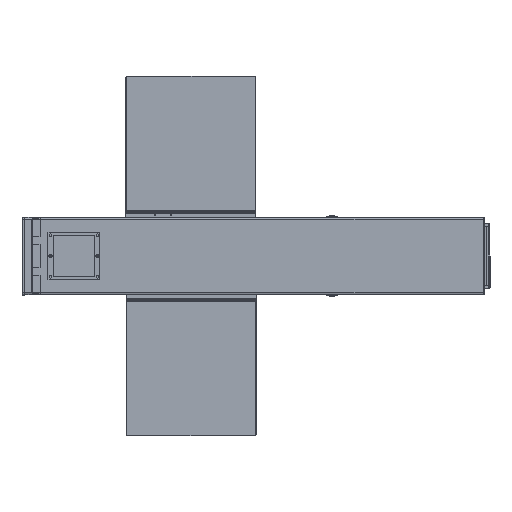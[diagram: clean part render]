
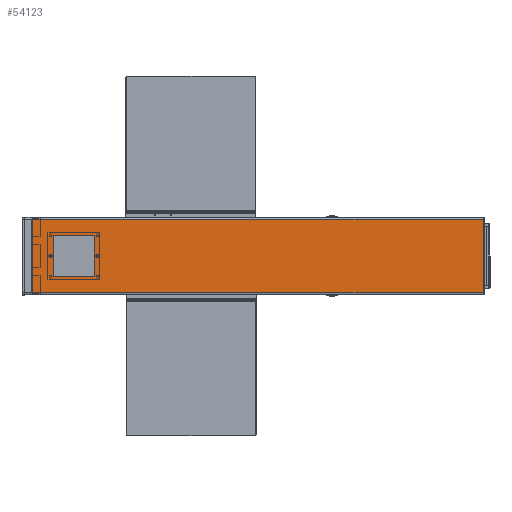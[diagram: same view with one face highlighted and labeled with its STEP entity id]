
A CAD part, left-side view. The second image highlights one B-rep face of the part: STEP entity #54123.
In plain terms, the highlighted planar face has unit normal (-1, 0, 0).
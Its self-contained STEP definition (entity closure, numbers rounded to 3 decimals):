
#933 = ORIENTED_EDGE ( 'NONE', *, *, #22553, .F. ) ;
#1550 = DIRECTION ( 'NONE',  ( 0., 0., -1. ) ) ;
#1794 = ORIENTED_EDGE ( 'NONE', *, *, #59800, .F. ) ;
#2499 = CARTESIAN_POINT ( 'NONE',  ( 0., 3., 71. ) ) ;
#3221 = VERTEX_POINT ( 'NONE', #36270 ) ;
#3686 = CARTESIAN_POINT ( 'NONE',  ( 0., 3., 70.999 ) ) ;
#4057 = CARTESIAN_POINT ( 'NONE',  ( 0., 870., -74. ) ) ;
#5392 = EDGE_CURVE ( 'NONE', #48342, #33357, #32917, .T. ) ;
#5686 = ORIENTED_EDGE ( 'NONE', *, *, #39992, .F. ) ;
#6883 = LINE ( 'NONE', #32531, #36409 ) ;
#7031 = DIRECTION ( 'NONE',  ( 0., 0., -1. ) ) ;
#8426 = CIRCLE ( 'NONE', #43385, 4. ) ;
#9350 = EDGE_CURVE ( 'NONE', #3221, #66545, #6883, .T. ) ;
#9856 = ORIENTED_EDGE ( 'NONE', *, *, #82228, .F. ) ;
#12109 = CARTESIAN_POINT ( 'NONE',  ( 0., 3.001, -74. ) ) ;
#12134 = LINE ( 'NONE', #37803, #80181 ) ;
#12527 = CARTESIAN_POINT ( 'NONE',  ( 0., 3., -70.999 ) ) ;
#13840 = DIRECTION ( 'NONE',  ( 0., 0., -1. ) ) ;
#14849 = EDGE_CURVE ( 'NONE', #49446, #40145, #50481, .T. ) ;
#15073 = VERTEX_POINT ( 'NONE', #33230 ) ;
#15799 = VERTEX_POINT ( 'NONE', #3686 ) ;
#16761 = LINE ( 'NONE', #49527, #70058 ) ;
#17163 = EDGE_CURVE ( 'NONE', #43321, #25435, #12134, .T. ) ;
#17921 = DIRECTION ( 'NONE',  ( 1., 0., 0. ) ) ;
#18798 = CIRCLE ( 'NONE', #75206, 4. ) ;
#19355 = CARTESIAN_POINT ( 'NONE',  ( 0., 870., -74. ) ) ;
#19509 = CARTESIAN_POINT ( 'NONE',  ( 0., 826., -40. ) ) ;
#22488 = VECTOR ( 'NONE', #74088, 1000. ) ;
#22553 = EDGE_CURVE ( 'NONE', #15799, #49446, #50998, .T. ) ;
#24178 = DIRECTION ( 'NONE',  ( 0., 0., -1. ) ) ;
#24221 = ORIENTED_EDGE ( 'NONE', *, *, #67752, .F. ) ;
#25100 = ORIENTED_EDGE ( 'NONE', *, *, #63370, .F. ) ;
#25435 = VERTEX_POINT ( 'NONE', #36154 ) ;
#25591 = EDGE_CURVE ( 'NONE', #29754, #71290, #45776, .T. ) ;
#26010 = VECTOR ( 'NONE', #31184, 1000. ) ;
#28351 = CIRCLE ( 'NONE', #75358, 4. ) ;
#29160 = ORIENTED_EDGE ( 'NONE', *, *, #66202, .F. ) ;
#29426 = VECTOR ( 'NONE', #24178, 1000. ) ;
#29754 = VERTEX_POINT ( 'NONE', #62087 ) ;
#30257 = CARTESIAN_POINT ( 'NONE',  ( 0., 754., 36. ) ) ;
#31184 = DIRECTION ( 'NONE',  ( 0., 1., 0. ) ) ;
#32531 = CARTESIAN_POINT ( 'NONE',  ( 0., 1.5, -71. ) ) ;
#32549 = CARTESIAN_POINT ( 'NONE',  ( 0., 750., -36. ) ) ;
#32917 = LINE ( 'NONE', #60183, #59363 ) ;
#33159 = CARTESIAN_POINT ( 'NONE',  ( 0., 830., -36. ) ) ;
#33230 = CARTESIAN_POINT ( 'NONE',  ( 0., 870., 71. ) ) ;
#33357 = VERTEX_POINT ( 'NONE', #2499 ) ;
#33948 = DIRECTION ( 'NONE',  ( -1., 0., 0. ) ) ;
#34002 = ORIENTED_EDGE ( 'NONE', *, *, #14849, .F. ) ;
#34536 = VECTOR ( 'NONE', #43626, 1000. ) ;
#36154 = CARTESIAN_POINT ( 'NONE',  ( 0., 750., 36. ) ) ;
#36270 = CARTESIAN_POINT ( 'NONE',  ( 0., 3., -71. ) ) ;
#36409 = VECTOR ( 'NONE', #58151, 1000. ) ;
#36780 = CARTESIAN_POINT ( 'NONE',  ( 0., 3., 73.585 ) ) ;
#37803 = CARTESIAN_POINT ( 'NONE',  ( 0., 750., -36. ) ) ;
#38135 = CARTESIAN_POINT ( 'NONE',  ( 0., 870., 71. ) ) ;
#39102 = CARTESIAN_POINT ( 'NONE',  ( 0., 870., 70.999 ) ) ;
#39732 = EDGE_CURVE ( 'NONE', #40145, #3221, #62573, .T. ) ;
#39992 = EDGE_CURVE ( 'NONE', #67983, #43321, #18798, .T. ) ;
#40145 = VERTEX_POINT ( 'NONE', #80613 ) ;
#41236 = ORIENTED_EDGE ( 'NONE', *, *, #58928, .F. ) ;
#42291 = ORIENTED_EDGE ( 'NONE', *, *, #52319, .F. ) ;
#43321 = VERTEX_POINT ( 'NONE', #32549 ) ;
#43385 = AXIS2_PLACEMENT_3D ( 'NONE', #59124, #53663, #1550 ) ;
#43626 = DIRECTION ( 'NONE',  ( 0., -1., 0. ) ) ;
#44054 = ORIENTED_EDGE ( 'NONE', *, *, #9350, .F. ) ;
#44186 = DIRECTION ( 'NONE',  ( 0., 0., 1. ) ) ;
#45654 = ORIENTED_EDGE ( 'NONE', *, *, #39732, .F. ) ;
#45776 = LINE ( 'NONE', #33159, #57900 ) ;
#46541 = CARTESIAN_POINT ( 'NONE',  ( 0., 754., -36. ) ) ;
#46962 = CARTESIAN_POINT ( 'NONE',  ( 0., 830., -36. ) ) ;
#47695 = AXIS2_PLACEMENT_3D ( 'NONE', #4057, #17921, #68792 ) ;
#48342 = VERTEX_POINT ( 'NONE', #60486 ) ;
#49263 = CARTESIAN_POINT ( 'NONE',  ( 0., 870., -70.999 ) ) ;
#49446 = VERTEX_POINT ( 'NONE', #12527 ) ;
#49527 = CARTESIAN_POINT ( 'NONE',  ( 0., 826., 40. ) ) ;
#50481 = LINE ( 'NONE', #49263, #26010 ) ;
#50644 = FACE_OUTER_BOUND ( 'NONE', #67129, .T. ) ;
#50844 = CARTESIAN_POINT ( 'NONE',  ( 0., 826., -36. ) ) ;
#50998 = LINE ( 'NONE', #36780, #29426 ) ;
#51283 = VERTEX_POINT ( 'NONE', #52833 ) ;
#52091 = LINE ( 'NONE', #19355, #72744 ) ;
#52319 = EDGE_CURVE ( 'NONE', #66545, #15073, #52091, .T. ) ;
#52833 = CARTESIAN_POINT ( 'NONE',  ( 0., 754., 40. ) ) ;
#53663 = DIRECTION ( 'NONE',  ( -1., 0., 0. ) ) ;
#54123 = ADVANCED_FACE ( 'NONE', ( #69188, #50644 ), #75492, .F. ) ;
#54464 = CARTESIAN_POINT ( 'NONE',  ( 0., 870., -71. ) ) ;
#55150 = CARTESIAN_POINT ( 'NONE',  ( 0., 826., -40. ) ) ;
#55636 = CIRCLE ( 'NONE', #75804, 4. ) ;
#55845 = DIRECTION ( 'NONE',  ( -1., 0., 0. ) ) ;
#56615 = LINE ( 'NONE', #38135, #34536 ) ;
#57900 = VECTOR ( 'NONE', #65935, 1000. ) ;
#58151 = DIRECTION ( 'NONE',  ( 0., 1., 0. ) ) ;
#58928 = EDGE_CURVE ( 'NONE', #25435, #51283, #28351, .T. ) ;
#59124 = CARTESIAN_POINT ( 'NONE',  ( 0., 826., 36. ) ) ;
#59363 = VECTOR ( 'NONE', #59368, 1000. ) ;
#59368 = DIRECTION ( 'NONE',  ( 0., 0., 1. ) ) ;
#59671 = CARTESIAN_POINT ( 'NONE',  ( 0., 754., -40. ) ) ;
#59800 = EDGE_CURVE ( 'NONE', #51283, #70733, #16761, .T. ) ;
#60183 = CARTESIAN_POINT ( 'NONE',  ( 0., 3., -74. ) ) ;
#60299 = ORIENTED_EDGE ( 'NONE', *, *, #70768, .T. ) ;
#60486 = CARTESIAN_POINT ( 'NONE',  ( 0., 3., 70.999 ) ) ;
#62087 = CARTESIAN_POINT ( 'NONE',  ( 0., 830., 36. ) ) ;
#62103 = ORIENTED_EDGE ( 'NONE', *, *, #25591, .F. ) ;
#62573 = LINE ( 'NONE', #12109, #71084 ) ;
#63019 = DIRECTION ( 'NONE',  ( 0., 0., 1. ) ) ;
#63370 = EDGE_CURVE ( 'NONE', #71290, #66665, #55636, .T. ) ;
#63482 = LINE ( 'NONE', #39102, #78823 ) ;
#64280 = DIRECTION ( 'NONE',  ( -1., 0., 0. ) ) ;
#65935 = DIRECTION ( 'NONE',  ( 0., 0., -1. ) ) ;
#66202 = EDGE_CURVE ( 'NONE', #15073, #33357, #56615, .T. ) ;
#66545 = VERTEX_POINT ( 'NONE', #54464 ) ;
#66665 = VERTEX_POINT ( 'NONE', #19509 ) ;
#67129 = EDGE_LOOP ( 'NONE', ( #45654, #34002, #933, #60299, #68535, #29160, #42291, #44054 ) ) ;
#67752 = EDGE_CURVE ( 'NONE', #66665, #67983, #74496, .T. ) ;
#67983 = VERTEX_POINT ( 'NONE', #59671 ) ;
#68422 = ORIENTED_EDGE ( 'NONE', *, *, #17163, .F. ) ;
#68535 = ORIENTED_EDGE ( 'NONE', *, *, #5392, .T. ) ;
#68792 = DIRECTION ( 'NONE',  ( 0., 0., -1. ) ) ;
#68882 = DIRECTION ( 'NONE',  ( 0., 1., 0. ) ) ;
#69188 = FACE_BOUND ( 'NONE', #79090, .T. ) ;
#70058 = VECTOR ( 'NONE', #68882, 1000. ) ;
#70116 = DIRECTION ( 'NONE',  ( 0., 0., -1. ) ) ;
#70733 = VERTEX_POINT ( 'NONE', #71003 ) ;
#70768 = EDGE_CURVE ( 'NONE', #15799, #48342, #63482, .T. ) ;
#71003 = CARTESIAN_POINT ( 'NONE',  ( 0., 826., 40. ) ) ;
#71084 = VECTOR ( 'NONE', #70116, 1000. ) ;
#71290 = VERTEX_POINT ( 'NONE', #46962 ) ;
#72744 = VECTOR ( 'NONE', #44186, 1000. ) ;
#74088 = DIRECTION ( 'NONE',  ( 0., -1., 0. ) ) ;
#74496 = LINE ( 'NONE', #55150, #22488 ) ;
#75206 = AXIS2_PLACEMENT_3D ( 'NONE', #46541, #33948, #7031 ) ;
#75358 = AXIS2_PLACEMENT_3D ( 'NONE', #30257, #55845, #81508 ) ;
#75492 = PLANE ( 'NONE',  #47695 ) ;
#75804 = AXIS2_PLACEMENT_3D ( 'NONE', #50844, #64280, #13840 ) ;
#78823 = VECTOR ( 'NONE', #82406, 1000. ) ;
#79090 = EDGE_LOOP ( 'NONE', ( #24221, #25100, #62103, #9856, #1794, #41236, #68422, #5686 ) ) ;
#80181 = VECTOR ( 'NONE', #63019, 1000. ) ;
#80613 = CARTESIAN_POINT ( 'NONE',  ( 0., 3., -70.999 ) ) ;
#81508 = DIRECTION ( 'NONE',  ( 0., 0., -1. ) ) ;
#82228 = EDGE_CURVE ( 'NONE', #70733, #29754, #8426, .T. ) ;
#82406 = DIRECTION ( 'NONE',  ( 0., 1., 0. ) ) ;
